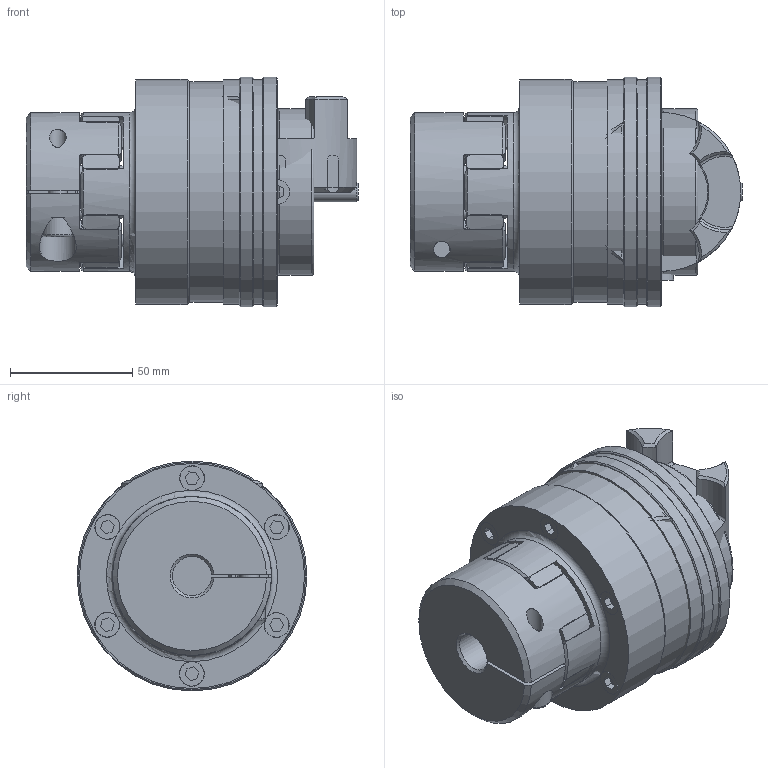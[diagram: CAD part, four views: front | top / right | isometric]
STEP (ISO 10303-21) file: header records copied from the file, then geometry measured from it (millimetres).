
FILE_DESCRIPTION( ( 'Unknown' ), '1' );
FILE_NAME( 'C:/Dokumente und Einstellungen/Sven/Desktop/hp kbk/E-KI/KBK EKI-28-121.stp', 'Unknown', ( 'Unknown' ), ( 'Unknown' ), 'XStep 1.0', 'Unknown', ' ' );
FILE_SCHEMA( ( 'automotive_design' ) );
Length unit declared in the file: millimetre
Products named in the file (18): Assem1; Assem2; Assem3; Zylinderschraube DIN 912_0; ball_bearing_-_6008_0_01; ball_bearing_-_6008_0_02; ball_bearing_-_6008_0_03; KBK L-I-80 Grundkörper; Konusbuchse 80; Stellring 80; Druckring 80; Flansch 80; a_40; din_en_24017_m6x25; Elastomerflansch 28; Zahnkranz EK28_Standard; KBE 2 C - 28_Nabe; Socket Head Cap Screw_DIN_DIN 912 M8 x 25 --- 25C
Bounding box: 135.75 x 94 x 94 mm (x, y, z)
Volume: 870808.7 mm3; surface area: 326464.8 mm2
Topology: 44 solids, 44 shells, 1081 faces, 2464 edges, 1576 vertices
Faces by surface type: plane 405, cylinder 342, cone 276, torus 58
Full cylindrical faces by diameter (mm): 2.5 x4, 3.242 x6, 4.917 x30, 5 x24, 5.2 x6, 6 x15, 6.2 x12, 6.6 x12, 6.8 x2, 8 x2, 8.8 x7, 9 x2, 10 x8, 10.2 x12, 13 x2, 30 x10, 37.5 x2, 40 x7, 41 x2, 49.2 x6, 59.1 x6, 59.5 x2, 61 x2, 62 x4, 65 x2, 68 x7, 70 x2, 85 x2, 87 x2, 90 x4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
Entity records: 12700 total; most frequent: CARTESIAN_POINT 2973, DIRECTION 2109, ORIENTED_EDGE 1654, AXIS2_PLACEMENT_3D 964, EDGE_CURVE 827, EDGE_LOOP 678, VERTEX_POINT 600, FACE_OUTER_BOUND 540
